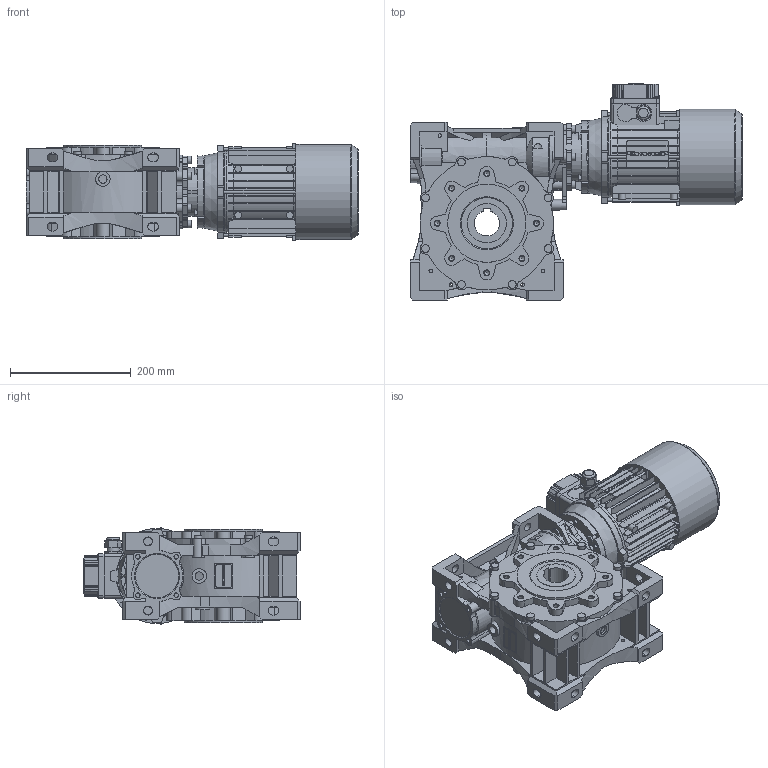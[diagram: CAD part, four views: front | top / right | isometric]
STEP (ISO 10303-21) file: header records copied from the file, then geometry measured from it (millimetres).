
FILE_DESCRIPTION(/* description */ ('STEP AP203'),/* implementation_level */ '2;1');
FILE_NAME(/* name */ 'NMRVP 110 120x19 42 NO NO - - NO - - - NO TP 080 80B41-(-----IC411NONO------STD)',/* time_stamp */ '2023-05-08T10:05:29+02:00',/* author */ ('License CC BY-ND 4.0'),/* organization */ ('CADENAS'),/* preprocessor_version */ 'ST-DEVELOPER v19.3',/* originating_system */ 'PARTsolutions',/* authorisation */ ' ');
FILE_SCHEMA (('CONFIG_CONTROL_DESIGN'));
Length unit declared in the file: millimetre
Products named in the file (12): NMRVP 110 120x19 42 NO NO - - NO - - - NO TP 080 80B41-(-----IC411NON
O------STD); 110-65; ALBERO_TP08019X40NO; PRESSACAVO_2; COPRIMORSETTIERA_TP080A002; COP_TP_80B4_IC411_NO_-_-_-_-_STD; CARCASSA_TP80B4080IC411B1419X40NONO--; FLANGIA_TP080B14-; 11080 B14; W.110.14.19.M-p; 110-42 (155); W.110.01.M
Assembly tree (11 placements, depth 2):
  NMRVP 110 120x19 42 NO NO - - NO - - - NO TP 080 80B41-(-----IC411NON
O------STD)
    110-65
    ALBERO_TP08019X40NO
    PRESSACAVO_2
    COPRIMORSETTIERA_TP080A002
    COP_TP_80B4_IC411_NO_-_-_-_-_STD
    CARCASSA_TP80B4080IC411B1419X40NONO--
    FLANGIA_TP080B14-
    11080 B14
    W.110.14.19.M-p
    110-42 (155)
    W.110.01.M
Bounding box: 551 x 359 x 160.29 mm (x, y, z)
Volume: 12142274.7 mm3; surface area: 1012766.9 mm2
Topology: 11 solids, 15 shells, 3139 faces, 8667 edges, 5742 vertices
Faces by surface type: plane 1634, cylinder 1368, cone 126, torus 7, sphere 4
Full cylindrical faces by diameter (mm): 1.8 x1, 2.02 x1, 4.917 x1, 5 x8, 6 x18, 6.4 x1, 7.45 x12, 8 x4, 8.376 x16, 11.5 x4, 13 x14, 14 x8, 14.5 x2, 19 x1, 20 x3, 22 x1, 24 x2, 39 x1, 41 x1, 55 x1, 56 x1, 63 x1, 65 x3, 72.5 x1, 80 x2, 90 x3, 130 x4, 135 x2, 157.9 x1
Entity records: 110530 total; most frequent: CARTESIAN_POINT 18692, DIRECTION 17354, ORIENTED_EDGE 16840, EDGE_CURVE 8420, AXIS2_PLACEMENT_3D 6179, VERTEX_POINT 5699, LINE 4996, VECTOR 4996
